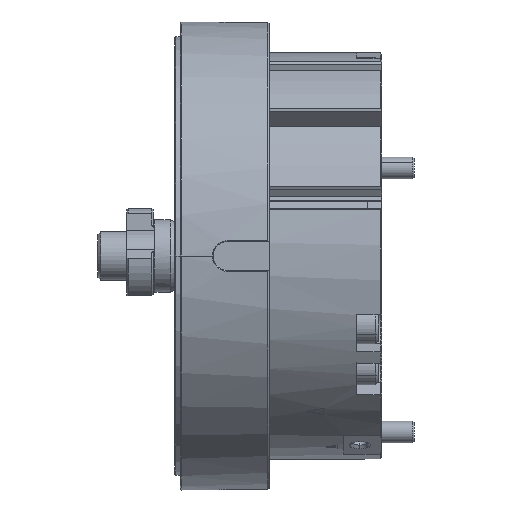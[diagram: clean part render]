
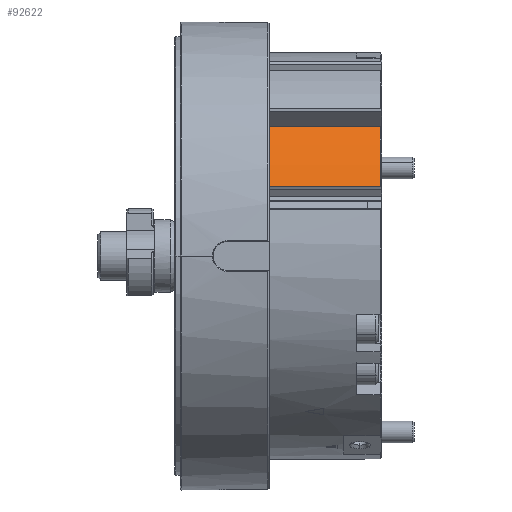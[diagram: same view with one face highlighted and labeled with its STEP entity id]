
A CAD part, left-side view. The second image highlights one B-rep face of the part: STEP entity #92622.
In plain terms, the highlighted cylindrical face has radius 56 mm (diameter 112 mm), a partial arc.
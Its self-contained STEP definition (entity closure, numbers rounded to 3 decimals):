
#3853 = CARTESIAN_POINT ( 'NONE',  ( -52.657, 0.4, 19.059 ) ) ;
#4762 = CARTESIAN_POINT ( 'NONE',  ( -43.147, 68.366, 35.697 ) ) ;
#5433 = ORIENTED_EDGE ( 'NONE', *, *, #15420, .T. ) ;
#8296 = DIRECTION ( 'NONE',  ( 0., -1., 0. ) ) ;
#8694 = DIRECTION ( 'NONE',  ( 0., 1., 0. ) ) ;
#9363 = EDGE_CURVE ( 'NONE', #73929, #27542, #29610, .T. ) ;
#15026 = CIRCLE ( 'NONE', #59445, 56. ) ;
#15420 = EDGE_CURVE ( 'NONE', #61157, #73929, #80224, .T. ) ;
#16420 = CARTESIAN_POINT ( 'NONE',  ( -52.657, 31.6, 19.059 ) ) ;
#18667 = FACE_OUTER_BOUND ( 'NONE', #26264, .T. ) ;
#24074 = VECTOR ( 'NONE', #83899, 1000. ) ;
#25408 = LINE ( 'NONE', #4762, #24074 ) ;
#26264 = EDGE_LOOP ( 'NONE', ( #74473, #78926, #33878, #5433 ) ) ;
#27542 = VERTEX_POINT ( 'NONE', #65249 ) ;
#27905 = EDGE_CURVE ( 'NONE', #27542, #37034, #25408, .T. ) ;
#28155 = DIRECTION ( 'NONE',  ( 0., 0., 1. ) ) ;
#29610 = CIRCLE ( 'NONE', #83185, 56. ) ;
#31145 = CYLINDRICAL_SURFACE ( 'NONE', #51413, 56. ) ;
#33878 = ORIENTED_EDGE ( 'NONE', *, *, #67798, .F. ) ;
#37034 = VERTEX_POINT ( 'NONE', #78156 ) ;
#37108 = CARTESIAN_POINT ( 'NONE',  ( -52.657, 68.366, 19.059 ) ) ;
#41289 = VECTOR ( 'NONE', #8296, 1000. ) ;
#42580 = DIRECTION ( 'NONE',  ( 0., 1., 0. ) ) ;
#51413 = AXIS2_PLACEMENT_3D ( 'NONE', #60867, #90127, #83372 ) ;
#58624 = DIRECTION ( 'NONE',  ( 0., 0., 1. ) ) ;
#59445 = AXIS2_PLACEMENT_3D ( 'NONE', #93903, #42580, #28155 ) ;
#60867 = CARTESIAN_POINT ( 'NONE',  ( 0., 68.366, 0. ) ) ;
#61157 = VERTEX_POINT ( 'NONE', #16420 ) ;
#65249 = CARTESIAN_POINT ( 'NONE',  ( -43.147, 0.4, 35.697 ) ) ;
#67798 = EDGE_CURVE ( 'NONE', #61157, #37034, #15026, .T. ) ;
#73929 = VERTEX_POINT ( 'NONE', #3853 ) ;
#74473 = ORIENTED_EDGE ( 'NONE', *, *, #9363, .T. ) ;
#78156 = CARTESIAN_POINT ( 'NONE',  ( -43.147, 31.6, 35.697 ) ) ;
#78926 = ORIENTED_EDGE ( 'NONE', *, *, #27905, .T. ) ;
#80224 = LINE ( 'NONE', #37108, #41289 ) ;
#83185 = AXIS2_PLACEMENT_3D ( 'NONE', #87875, #8694, #58624 ) ;
#83372 = DIRECTION ( 'NONE',  ( 0., 0., 1. ) ) ;
#83899 = DIRECTION ( 'NONE',  ( 0., 1., 0. ) ) ;
#87875 = CARTESIAN_POINT ( 'NONE',  ( 0., 0.4, 0. ) ) ;
#90127 = DIRECTION ( 'NONE',  ( 0., 1., 0. ) ) ;
#92622 = ADVANCED_FACE ( 'NONE', ( #18667 ), #31145, .T. ) ;
#93903 = CARTESIAN_POINT ( 'NONE',  ( 0., 31.6, 0. ) ) ;
